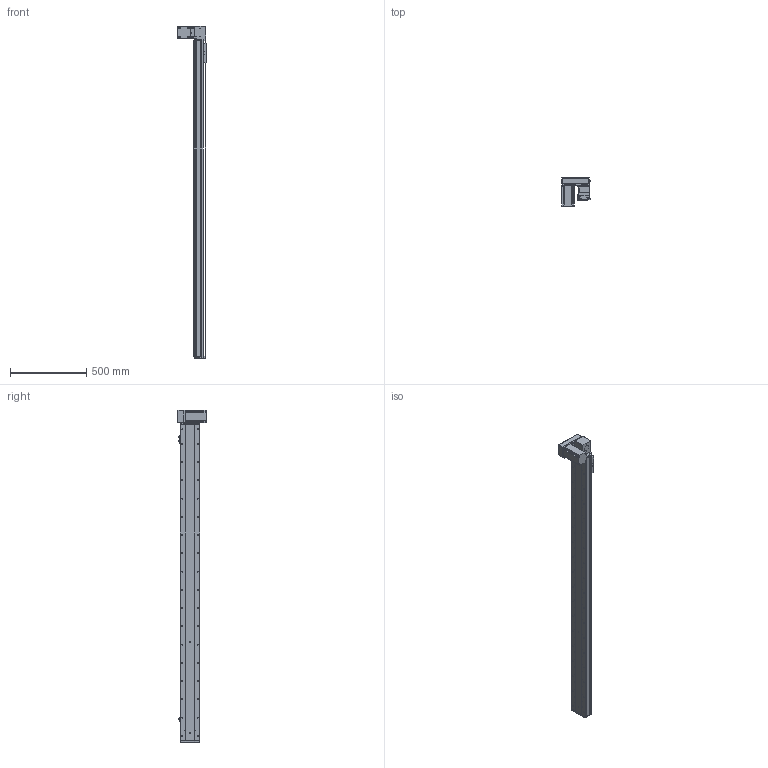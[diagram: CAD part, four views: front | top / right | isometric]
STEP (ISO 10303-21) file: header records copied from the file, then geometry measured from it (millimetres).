
FILE_DESCRIPTION (( 'STEP AP214' ), '1' );
FILE_NAME ('KSD130B-S1850-MRD-CM.STEP', '2019-11-16T02:07:03', ( '微软用户' ), ( '微软中国' ), 'SwSTEP 2.0', 'SolidWorks 2014', '' );
FILE_SCHEMA (( 'AUTOMOTIVE_DESIGN' ));
Length unit declared in the file: millimetre
Products named in the file (12): 130宽马达安装板同步带右-改镜向_默认<按加工>; 130宽马达安装板同步带半封闭; 130宽同步带安装座半封闭; 130宽端盖同步带半封闭; 130宽底板半封闭同步带-1850行程; KSD130B-S1850-MRD-CM; 130宽模组保护罩上下左右折-同步带; 台达ECMA－C20807AS伺服电机; 130宽模组马达安装板连板上下折丝杆同步带; 覜茼え100遵圉猾敕; U倰嫖萇EEㄜSX672; 130宽盖板半封闭同步带-1850行程
Assembly tree (13 placements, depth 2):
  KSD130B-S1850-MRD-CM
    130宽底板半封闭同步带-1850行程
    130宽端盖同步带半封闭
    130宽同步带安装座半封闭
    130宽马达安装板同步带半封闭
    130宽马达安装板同步带右-改镜向_默认<按加工>
    130宽盖板半封闭同步带-1850行程
    U倰嫖萇EEㄜSX672  x3
    覜茼え100遵圉猾敕
    130宽模组马达安装板连板上下折丝杆同步带
    台达ECMA－C20807AS伺服电机
    130宽模组保护罩上下左右折-同步带
Bounding box: 186 x 184.8 x 2183 mm (x, y, z)
Volume: 7258589.7 mm3; surface area: 2060154.1 mm2
Topology: 14 solids, 14 shells, 1749 faces, 5105 edges, 3231 vertices
Faces by surface type: cylinder 864, plane 654, cone 231
Entity records: 59875 total; most frequent: CARTESIAN_POINT 11640, DIRECTION 9015, ORIENTED_EDGE 8734, EDGE_CURVE 4367, AXIS2_PLACEMENT_3D 3326, VERTEX_POINT 2855, LINE 2363, VECTOR 2363
